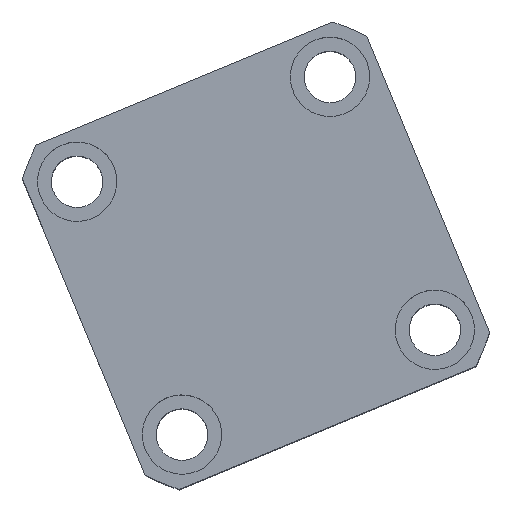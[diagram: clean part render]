
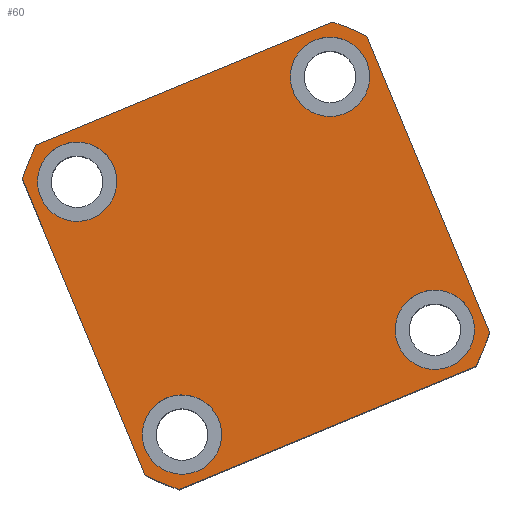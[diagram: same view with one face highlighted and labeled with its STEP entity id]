
A CAD part, top view. The second image highlights one B-rep face of the part: STEP entity #60.
In plain terms, the highlighted planar face has unit normal (0, 0, 1) as drawn and (0, 0, -1) by its records, which use the part's own axes.
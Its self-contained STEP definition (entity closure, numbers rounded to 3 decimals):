
#60 = ADVANCED_FACE ( 'NONE', ( #3916, #14818, #11179, #285, #14407 ), #17140, .F. ) ;
#285 = FACE_BOUND ( 'NONE', #15913, .T. ) ;
#320 = CARTESIAN_POINT ( 'NONE',  ( 0., 0., 0. ) ) ;
#329 = ORIENTED_EDGE ( 'NONE', *, *, #15888, .F. ) ;
#494 = LINE ( 'NONE', #12245, #3274 ) ;
#584 = CIRCLE ( 'NONE', #6470, 10. ) ;
#789 = CIRCLE ( 'NONE', #2009, 62. ) ;
#1206 = EDGE_CURVE ( 'NONE', #2025, #3520, #494, .T. ) ;
#1297 = VERTEX_POINT ( 'NONE', #9640 ) ;
#1414 = CIRCLE ( 'NONE', #13903, 10. ) ;
#1505 = EDGE_CURVE ( 'NONE', #14226, #2215, #9247, .T. ) ;
#1564 = EDGE_LOOP ( 'NONE', ( #1811, #16539 ) ) ;
#1660 = CARTESIAN_POINT ( 'NONE',  ( 47., -40.435, 0. ) ) ;
#1687 = DIRECTION ( 'NONE',  ( 1., 0., 0. ) ) ;
#1737 = EDGE_LOOP ( 'NONE', ( #9992, #3554, #7327, #329, #9096, #1781, #9264, #4103 ) ) ;
#1781 = ORIENTED_EDGE ( 'NONE', *, *, #1206, .F. ) ;
#1811 = ORIENTED_EDGE ( 'NONE', *, *, #12898, .F. ) ;
#1982 = VERTEX_POINT ( 'NONE', #4341 ) ;
#2009 = AXIS2_PLACEMENT_3D ( 'NONE', #12884, #4704, #14271 ) ;
#2025 = VERTEX_POINT ( 'NONE', #5182 ) ;
#2048 = CARTESIAN_POINT ( 'NONE',  ( 44.5, 34.5, 0. ) ) ;
#2096 = CIRCLE ( 'NONE', #13429, 10. ) ;
#2215 = VERTEX_POINT ( 'NONE', #13843 ) ;
#2484 = CARTESIAN_POINT ( 'NONE',  ( -47., -47., 0. ) ) ;
#2742 = CARTESIAN_POINT ( 'NONE',  ( -24.5, 34.5, 0. ) ) ;
#2842 = ORIENTED_EDGE ( 'NONE', *, *, #15328, .F. ) ;
#2897 = CARTESIAN_POINT ( 'NONE',  ( 34.5, -34.5, 0. ) ) ;
#3265 = AXIS2_PLACEMENT_3D ( 'NONE', #6282, #15843, #7668 ) ;
#3274 = VECTOR ( 'NONE', #4073, 1000. ) ;
#3423 = EDGE_CURVE ( 'NONE', #15221, #1297, #5304, .T. ) ;
#3520 = VERTEX_POINT ( 'NONE', #10014 ) ;
#3554 = ORIENTED_EDGE ( 'NONE', *, *, #4115, .F. ) ;
#3637 = AXIS2_PLACEMENT_3D ( 'NONE', #14928, #13130, #6856 ) ;
#3762 = EDGE_CURVE ( 'NONE', #16963, #14860, #14942, .T. ) ;
#3799 = CARTESIAN_POINT ( 'NONE',  ( 40.435, 47., 0. ) ) ;
#3916 = FACE_BOUND ( 'NONE', #4198, .T. ) ;
#4073 = DIRECTION ( 'NONE',  ( 0., -1., 0. ) ) ;
#4103 = ORIENTED_EDGE ( 'NONE', *, *, #9157, .F. ) ;
#4115 = EDGE_CURVE ( 'NONE', #8014, #1982, #7882, .T. ) ;
#4132 = ORIENTED_EDGE ( 'NONE', *, *, #1505, .F. ) ;
#4160 = CARTESIAN_POINT ( 'NONE',  ( 24.5, -34.5, 0. ) ) ;
#4198 = EDGE_LOOP ( 'NONE', ( #6279, #2842 ) ) ;
#4279 = DIRECTION ( 'NONE',  ( -1., 0., 0. ) ) ;
#4341 = CARTESIAN_POINT ( 'NONE',  ( 47., 40.435, 0. ) ) ;
#4398 = AXIS2_PLACEMENT_3D ( 'NONE', #15120, #6930, #16482 ) ;
#4500 = CARTESIAN_POINT ( 'NONE',  ( 34.5, -34.5, 0. ) ) ;
#4704 = DIRECTION ( 'NONE',  ( 0., 0., 1. ) ) ;
#4738 = ORIENTED_EDGE ( 'NONE', *, *, #8353, .F. ) ;
#4761 = VERTEX_POINT ( 'NONE', #8246 ) ;
#4974 = AXIS2_PLACEMENT_3D ( 'NONE', #15597, #7413, #16957 ) ;
#5009 = AXIS2_PLACEMENT_3D ( 'NONE', #4500, #14073, #5869 ) ;
#5182 = CARTESIAN_POINT ( 'NONE',  ( -47., 40.435, 0. ) ) ;
#5248 = CIRCLE ( 'NONE', #12650, 62. ) ;
#5304 = CIRCLE ( 'NONE', #5009, 10. ) ;
#5341 = ORIENTED_EDGE ( 'NONE', *, *, #11661, .F. ) ;
#5392 = DIRECTION ( 'NONE',  ( -1., 0., 0. ) ) ;
#5509 = DIRECTION ( 'NONE',  ( -1., 0., 0. ) ) ;
#5581 = VERTEX_POINT ( 'NONE', #12665 ) ;
#5869 = DIRECTION ( 'NONE',  ( -1., 0., 0. ) ) ;
#5999 = AXIS2_PLACEMENT_3D ( 'NONE', #6628, #16185, #8012 ) ;
#6151 = CARTESIAN_POINT ( 'NONE',  ( -34.5, 34.5, 0. ) ) ;
#6279 = ORIENTED_EDGE ( 'NONE', *, *, #3423, .F. ) ;
#6282 = CARTESIAN_POINT ( 'NONE',  ( 0., 0., 0. ) ) ;
#6433 = CARTESIAN_POINT ( 'NONE',  ( -34.5, -34.5, 0. ) ) ;
#6470 = AXIS2_PLACEMENT_3D ( 'NONE', #2897, #12451, #4279 ) ;
#6569 = CIRCLE ( 'NONE', #3265, 62. ) ;
#6598 = CARTESIAN_POINT ( 'NONE',  ( -34.5, 34.5, 0. ) ) ;
#6618 = DIRECTION ( 'NONE',  ( 0., 1., 0. ) ) ;
#6628 = CARTESIAN_POINT ( 'NONE',  ( 34.5, 34.5, 0. ) ) ;
#6775 = CARTESIAN_POINT ( 'NONE',  ( 24.5, 34.5, 0. ) ) ;
#6856 = DIRECTION ( 'NONE',  ( 1., 0., 0. ) ) ;
#6930 = DIRECTION ( 'NONE',  ( 0., 0., 1. ) ) ;
#7327 = ORIENTED_EDGE ( 'NONE', *, *, #12052, .F. ) ;
#7413 = DIRECTION ( 'NONE',  ( 0., 0., -1. ) ) ;
#7533 = DIRECTION ( 'NONE',  ( -1., 0., 0. ) ) ;
#7668 = DIRECTION ( 'NONE',  ( 1., 0., 0. ) ) ;
#7815 = DIRECTION ( 'NONE',  ( -1., 0., 0. ) ) ;
#7882 = LINE ( 'NONE', #16174, #11919 ) ;
#7978 = DIRECTION ( 'NONE',  ( -1., 0., 0. ) ) ;
#8012 = DIRECTION ( 'NONE',  ( -1., 0., 0. ) ) ;
#8014 = VERTEX_POINT ( 'NONE', #1660 ) ;
#8246 = CARTESIAN_POINT ( 'NONE',  ( -40.435, 47., 0. ) ) ;
#8353 = EDGE_CURVE ( 'NONE', #9107, #10723, #14085, .T. ) ;
#8724 = LINE ( 'NONE', #17714, #12791 ) ;
#8779 = AXIS2_PLACEMENT_3D ( 'NONE', #14839, #12487, #5509 ) ;
#9096 = ORIENTED_EDGE ( 'NONE', *, *, #13550, .F. ) ;
#9107 = VERTEX_POINT ( 'NONE', #6775 ) ;
#9157 = EDGE_CURVE ( 'NONE', #10491, #4761, #8724, .T. ) ;
#9247 = CIRCLE ( 'NONE', #8779, 10. ) ;
#9264 = ORIENTED_EDGE ( 'NONE', *, *, #13411, .F. ) ;
#9345 = CIRCLE ( 'NONE', #5999, 10. ) ;
#9594 = EDGE_CURVE ( 'NONE', #2215, #14226, #2096, .T. ) ;
#9640 = CARTESIAN_POINT ( 'NONE',  ( 44.5, -34.5, 0. ) ) ;
#9769 = VECTOR ( 'NONE', #10666, 1000. ) ;
#9883 = DIRECTION ( 'NONE',  ( 0., 0., 1. ) ) ;
#9992 = ORIENTED_EDGE ( 'NONE', *, *, #11353, .F. ) ;
#10014 = CARTESIAN_POINT ( 'NONE',  ( -47., -40.435, 0. ) ) ;
#10491 = VERTEX_POINT ( 'NONE', #3799 ) ;
#10666 = DIRECTION ( 'NONE',  ( 1., 0., 0. ) ) ;
#10723 = VERTEX_POINT ( 'NONE', #2048 ) ;
#11143 = CARTESIAN_POINT ( 'NONE',  ( 40.435, -47., 0. ) ) ;
#11179 = FACE_BOUND ( 'NONE', #1564, .T. ) ;
#11353 = EDGE_CURVE ( 'NONE', #1982, #10491, #6569, .T. ) ;
#11661 = EDGE_CURVE ( 'NONE', #10723, #9107, #9345, .T. ) ;
#11800 = ORIENTED_EDGE ( 'NONE', *, *, #9594, .F. ) ;
#11919 = VECTOR ( 'NONE', #6618, 1000. ) ;
#11990 = CARTESIAN_POINT ( 'NONE',  ( -24.5, -34.5, 0. ) ) ;
#12052 = EDGE_CURVE ( 'NONE', #15496, #8014, #789, .T. ) ;
#12245 = CARTESIAN_POINT ( 'NONE',  ( -47., 47., 0. ) ) ;
#12324 = AXIS2_PLACEMENT_3D ( 'NONE', #6151, #15719, #7533 ) ;
#12451 = DIRECTION ( 'NONE',  ( 0., 0., -1. ) ) ;
#12487 = DIRECTION ( 'NONE',  ( 0., 0., -1. ) ) ;
#12650 = AXIS2_PLACEMENT_3D ( 'NONE', #320, #9883, #1687 ) ;
#12665 = CARTESIAN_POINT ( 'NONE',  ( -40.435, -47., 0. ) ) ;
#12791 = VECTOR ( 'NONE', #5392, 1000. ) ;
#12884 = CARTESIAN_POINT ( 'NONE',  ( 0., 0., 0. ) ) ;
#12898 = EDGE_CURVE ( 'NONE', #14860, #16963, #1414, .T. ) ;
#13130 = DIRECTION ( 'NONE',  ( 0., 0., 1. ) ) ;
#13411 = EDGE_CURVE ( 'NONE', #4761, #2025, #5248, .T. ) ;
#13429 = AXIS2_PLACEMENT_3D ( 'NONE', #6433, #15994, #7815 ) ;
#13550 = EDGE_CURVE ( 'NONE', #3520, #5581, #13841, .T. ) ;
#13841 = CIRCLE ( 'NONE', #4398, 62. ) ;
#13843 = CARTESIAN_POINT ( 'NONE',  ( -44.5, -34.5, 0. ) ) ;
#13903 = AXIS2_PLACEMENT_3D ( 'NONE', #6598, #16149, #7978 ) ;
#14073 = DIRECTION ( 'NONE',  ( 0., 0., -1. ) ) ;
#14085 = CIRCLE ( 'NONE', #4974, 10. ) ;
#14226 = VERTEX_POINT ( 'NONE', #11990 ) ;
#14271 = DIRECTION ( 'NONE',  ( 1., 0., 0. ) ) ;
#14407 = FACE_OUTER_BOUND ( 'NONE', #1737, .T. ) ;
#14818 = FACE_BOUND ( 'NONE', #15451, .T. ) ;
#14839 = CARTESIAN_POINT ( 'NONE',  ( -34.5, -34.5, 0. ) ) ;
#14860 = VERTEX_POINT ( 'NONE', #16009 ) ;
#14928 = CARTESIAN_POINT ( 'NONE',  ( 0., 0., 0. ) ) ;
#14942 = CIRCLE ( 'NONE', #12324, 10. ) ;
#15120 = CARTESIAN_POINT ( 'NONE',  ( 0., 0., 0. ) ) ;
#15221 = VERTEX_POINT ( 'NONE', #4160 ) ;
#15328 = EDGE_CURVE ( 'NONE', #1297, #15221, #584, .T. ) ;
#15451 = EDGE_LOOP ( 'NONE', ( #11800, #4132 ) ) ;
#15496 = VERTEX_POINT ( 'NONE', #11143 ) ;
#15597 = CARTESIAN_POINT ( 'NONE',  ( 34.5, 34.5, 0. ) ) ;
#15719 = DIRECTION ( 'NONE',  ( 0., 0., -1. ) ) ;
#15843 = DIRECTION ( 'NONE',  ( 0., 0., 1. ) ) ;
#15888 = EDGE_CURVE ( 'NONE', #5581, #15496, #16602, .T. ) ;
#15913 = EDGE_LOOP ( 'NONE', ( #4738, #5341 ) ) ;
#15994 = DIRECTION ( 'NONE',  ( 0., 0., -1. ) ) ;
#16009 = CARTESIAN_POINT ( 'NONE',  ( -44.5, 34.5, 0. ) ) ;
#16149 = DIRECTION ( 'NONE',  ( 0., 0., -1. ) ) ;
#16174 = CARTESIAN_POINT ( 'NONE',  ( 47., 47., 0. ) ) ;
#16185 = DIRECTION ( 'NONE',  ( 0., 0., -1. ) ) ;
#16482 = DIRECTION ( 'NONE',  ( 1., 0., 0. ) ) ;
#16539 = ORIENTED_EDGE ( 'NONE', *, *, #3762, .F. ) ;
#16602 = LINE ( 'NONE', #2484, #9769 ) ;
#16957 = DIRECTION ( 'NONE',  ( -1., 0., 0. ) ) ;
#16963 = VERTEX_POINT ( 'NONE', #2742 ) ;
#17140 = PLANE ( 'NONE',  #3637 ) ;
#17714 = CARTESIAN_POINT ( 'NONE',  ( -47., 47., 0. ) ) ;
